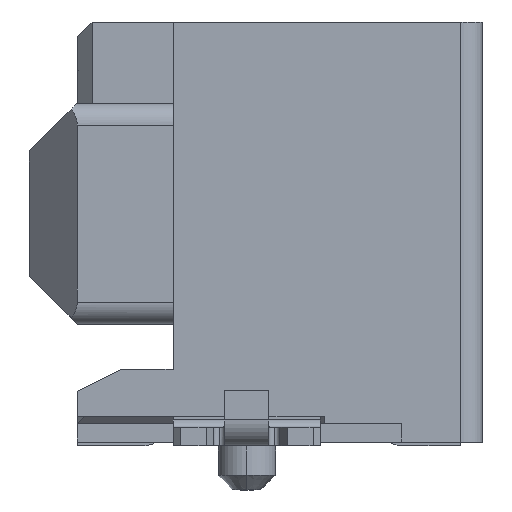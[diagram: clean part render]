
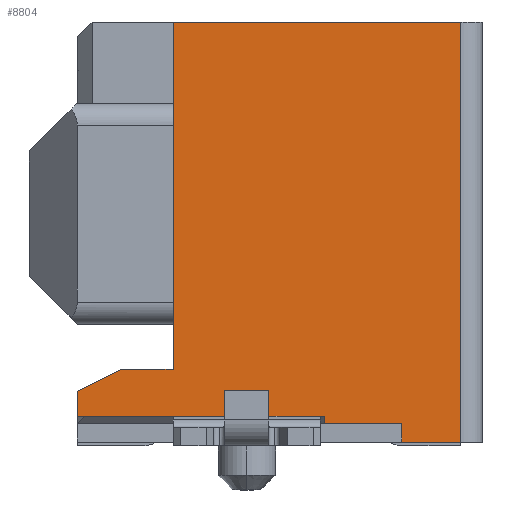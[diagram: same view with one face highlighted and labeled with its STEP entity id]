
A CAD part, left-side view. The second image highlights one B-rep face of the part: STEP entity #8804.
In plain terms, the highlighted planar face has unit normal (-1, 0, 0).
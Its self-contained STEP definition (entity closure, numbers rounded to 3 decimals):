
#31 = DIRECTION ( 'NONE',  ( 0., 0., -1. ) ) ;
#602 = ORIENTED_EDGE ( 'NONE', *, *, #9097, .F. ) ;
#804 = EDGE_CURVE ( 'NONE', #1392, #14784, #12134, .T. ) ;
#1024 = CARTESIAN_POINT ( 'NONE',  ( 4., -0.6, 0.99 ) ) ;
#1043 = CARTESIAN_POINT ( 'NONE',  ( 4., -1.3, 0. ) ) ;
#1134 = FACE_OUTER_BOUND ( 'NONE', #10952, .T. ) ;
#1137 = DIRECTION ( 'NONE',  ( 0., 0., 1. ) ) ;
#1184 = CARTESIAN_POINT ( 'NONE',  ( 4., -3.35, 0. ) ) ;
#1368 = EDGE_CURVE ( 'NONE', #2016, #10120, #3550, .T. ) ;
#1392 = VERTEX_POINT ( 'NONE', #12086 ) ;
#2016 = VERTEX_POINT ( 'NONE', #2039 ) ;
#2039 = CARTESIAN_POINT ( 'NONE',  ( 4., 0., 0.69 ) ) ;
#2194 = VECTOR ( 'NONE', #1137, 1000. ) ;
#2518 = CARTESIAN_POINT ( 'NONE',  ( 4., 0., 0. ) ) ;
#2686 = VECTOR ( 'NONE', #6966, 1000. ) ;
#2691 = CARTESIAN_POINT ( 'NONE',  ( 4., 0., 0. ) ) ;
#2988 = VERTEX_POINT ( 'NONE', #12770 ) ;
#3120 = CARTESIAN_POINT ( 'NONE',  ( 4., 0., 0.99 ) ) ;
#3261 = EDGE_CURVE ( 'NONE', #14603, #2016, #7204, .T. ) ;
#3550 = LINE ( 'NONE', #16044, #15993 ) ;
#3650 = ORIENTED_EDGE ( 'NONE', *, *, #1368, .F. ) ;
#3771 = VERTEX_POINT ( 'NONE', #13299 ) ;
#3801 = VECTOR ( 'NONE', #13947, 1000. ) ;
#3825 = LINE ( 'NONE', #1184, #5997 ) ;
#3961 = DIRECTION ( 'NONE',  ( 0., 0., -1. ) ) ;
#4016 = CARTESIAN_POINT ( 'NONE',  ( 4., -4.4, 0. ) ) ;
#4391 = DIRECTION ( 'NONE',  ( 0., -1., 0. ) ) ;
#5473 = ORIENTED_EDGE ( 'NONE', *, *, #10470, .T. ) ;
#5751 = VECTOR ( 'NONE', #11216, 1000. ) ;
#5913 = LINE ( 'NONE', #13240, #12094 ) ;
#5997 = VECTOR ( 'NONE', #7514, 1000. ) ;
#6104 = ORIENTED_EDGE ( 'NONE', *, *, #6785, .F. ) ;
#6334 = ORIENTED_EDGE ( 'NONE', *, *, #7104, .F. ) ;
#6358 = ORIENTED_EDGE ( 'NONE', *, *, #15975, .F. ) ;
#6785 = EDGE_CURVE ( 'NONE', #15343, #8445, #3825, .T. ) ;
#6966 = DIRECTION ( 'NONE',  ( 0., 1., 0. ) ) ;
#7104 = EDGE_CURVE ( 'NONE', #8445, #14603, #11573, .T. ) ;
#7204 = LINE ( 'NONE', #8467, #13399 ) ;
#7514 = DIRECTION ( 'NONE',  ( 0., 0., 1. ) ) ;
#7617 = EDGE_CURVE ( 'NONE', #14654, #3771, #13701, .T. ) ;
#7739 = LINE ( 'NONE', #3120, #13924 ) ;
#7755 = CARTESIAN_POINT ( 'NONE',  ( 4., -4.4, 0.25 ) ) ;
#7978 = EDGE_CURVE ( 'NONE', #2988, #14740, #9078, .T. ) ;
#8117 = CARTESIAN_POINT ( 'NONE',  ( 4., -3.35, 0.25 ) ) ;
#8329 = VECTOR ( 'NONE', #9873, 1000. ) ;
#8445 = VERTEX_POINT ( 'NONE', #15720 ) ;
#8467 = CARTESIAN_POINT ( 'NONE',  ( 4., 0., 0. ) ) ;
#8634 = DIRECTION ( 'NONE',  ( 0., 0., 1. ) ) ;
#8773 = ORIENTED_EDGE ( 'NONE', *, *, #11597, .F. ) ;
#8804 = ADVANCED_FACE ( 'NONE', ( #1134 ), #14526, .F. ) ;
#9078 = LINE ( 'NONE', #14991, #14512 ) ;
#9097 = EDGE_CURVE ( 'NONE', #14654, #15343, #5913, .T. ) ;
#9873 = DIRECTION ( 'NONE',  ( 0., 1., 0. ) ) ;
#10120 = VERTEX_POINT ( 'NONE', #1024 ) ;
#10470 = EDGE_CURVE ( 'NONE', #2988, #14784, #15929, .T. ) ;
#10693 = DIRECTION ( 'NONE',  ( 0., 1., 0. ) ) ;
#10952 = EDGE_LOOP ( 'NONE', ( #6104, #602, #12176, #8773, #11510, #5473, #11257, #6358, #3650, #12484, #6334 ) ) ;
#11216 = DIRECTION ( 'NONE',  ( 0., 1., 0. ) ) ;
#11257 = ORIENTED_EDGE ( 'NONE', *, *, #804, .F. ) ;
#11379 = DIRECTION ( 'NONE',  ( 1., 0., 0. ) ) ;
#11510 = ORIENTED_EDGE ( 'NONE', *, *, #7978, .F. ) ;
#11573 = LINE ( 'NONE', #13558, #8329 ) ;
#11597 = EDGE_CURVE ( 'NONE', #14740, #3771, #11934, .T. ) ;
#11934 = LINE ( 'NONE', #2518, #5751 ) ;
#12086 = CARTESIAN_POINT ( 'NONE',  ( 4., -1.3, 0.99 ) ) ;
#12094 = VECTOR ( 'NONE', #10693, 1000. ) ;
#12134 = LINE ( 'NONE', #1043, #2194 ) ;
#12176 = ORIENTED_EDGE ( 'NONE', *, *, #7617, .T. ) ;
#12484 = ORIENTED_EDGE ( 'NONE', *, *, #3261, .F. ) ;
#12607 = DIRECTION ( 'NONE',  ( 0., -0.894, 0.447 ) ) ;
#12770 = CARTESIAN_POINT ( 'NONE',  ( 4., -5.2, 5.7 ) ) ;
#12886 = CARTESIAN_POINT ( 'NONE',  ( 4., -5.2, 0. ) ) ;
#13240 = CARTESIAN_POINT ( 'NONE',  ( 4., 0., 0.25 ) ) ;
#13299 = CARTESIAN_POINT ( 'NONE',  ( 4., -4.4, 0. ) ) ;
#13399 = VECTOR ( 'NONE', #8634, 1000. ) ;
#13558 = CARTESIAN_POINT ( 'NONE',  ( 4., 0., 0.35 ) ) ;
#13701 = LINE ( 'NONE', #4016, #3801 ) ;
#13814 = CARTESIAN_POINT ( 'NONE',  ( 4., 0., 0.35 ) ) ;
#13924 = VECTOR ( 'NONE', #4391, 1000. ) ;
#13947 = DIRECTION ( 'NONE',  ( 0., 0., -1. ) ) ;
#14265 = CARTESIAN_POINT ( 'NONE',  ( 4., -1.3, 5.7 ) ) ;
#14512 = VECTOR ( 'NONE', #31, 1000. ) ;
#14526 = PLANE ( 'NONE',  #16177 ) ;
#14603 = VERTEX_POINT ( 'NONE', #13814 ) ;
#14654 = VERTEX_POINT ( 'NONE', #7755 ) ;
#14740 = VERTEX_POINT ( 'NONE', #12886 ) ;
#14784 = VERTEX_POINT ( 'NONE', #14265 ) ;
#14991 = CARTESIAN_POINT ( 'NONE',  ( 4., -5.2, 0. ) ) ;
#15343 = VERTEX_POINT ( 'NONE', #8117 ) ;
#15661 = CARTESIAN_POINT ( 'NONE',  ( 4., 0., 5.7 ) ) ;
#15720 = CARTESIAN_POINT ( 'NONE',  ( 4., -3.35, 0.35 ) ) ;
#15929 = LINE ( 'NONE', #15661, #2686 ) ;
#15975 = EDGE_CURVE ( 'NONE', #10120, #1392, #7739, .T. ) ;
#15993 = VECTOR ( 'NONE', #12607, 1000. ) ;
#16044 = CARTESIAN_POINT ( 'NONE',  ( 4., 0., 0.69 ) ) ;
#16177 = AXIS2_PLACEMENT_3D ( 'NONE', #2691, #11379, #3961 ) ;
